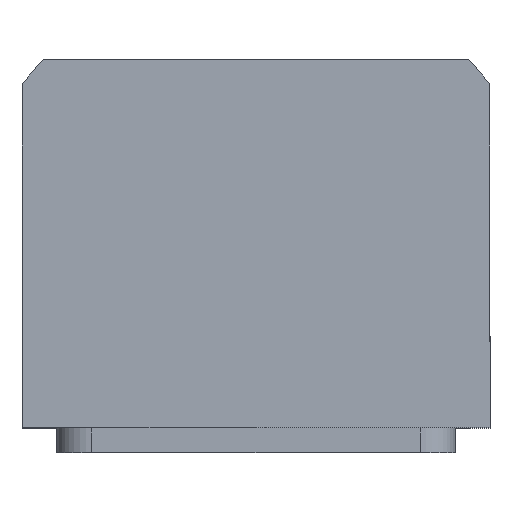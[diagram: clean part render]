
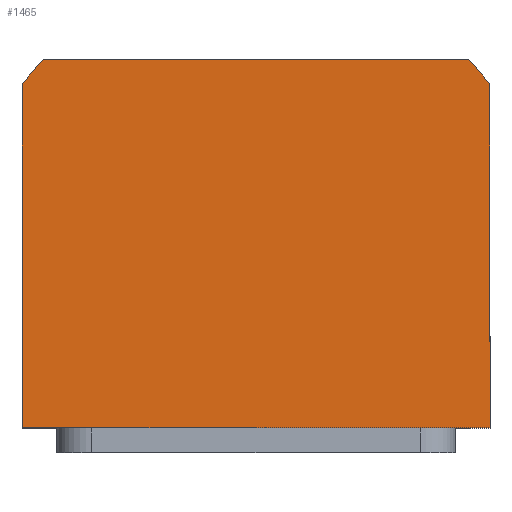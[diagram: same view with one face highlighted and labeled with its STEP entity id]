
A CAD part, top view. The second image highlights one B-rep face of the part: STEP entity #1465.
In plain terms, the highlighted planar face has unit normal (0, 0, 1).
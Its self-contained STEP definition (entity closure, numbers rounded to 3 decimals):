
#549 = DIRECTION ( 'NONE',  ( 0., 0., 1. ) ) ;
#1124 = EDGE_CURVE ( 'NONE', #9868, #4950, #4697, .T. ) ;
#1341 = CIRCLE ( 'NONE', #9817, 58.5 ) ;
#1465 = ADVANCED_FACE ( 'NONE', ( #9880 ), #2887, .T. ) ;
#1643 = DIRECTION ( 'NONE',  ( 1., 0., 0. ) ) ;
#1713 = DIRECTION ( 'NONE',  ( 1., 0., 0. ) ) ;
#1800 = CARTESIAN_POINT ( 'NONE',  ( 47., 34.832, 42.5 ) ) ;
#2244 = EDGE_CURVE ( 'NONE', #6904, #3081, #1341, .T. ) ;
#2869 = ORIENTED_EDGE ( 'NONE', *, *, #8954, .T. ) ;
#2887 = PLANE ( 'NONE',  #3330 ) ;
#2934 = CARTESIAN_POINT ( 'NONE',  ( -47., 34.832, 42.5 ) ) ;
#2999 = ORIENTED_EDGE ( 'NONE', *, *, #1124, .T. ) ;
#3081 = VERTEX_POINT ( 'NONE', #2934 ) ;
#3216 = VECTOR ( 'NONE', #10989, 1000. ) ;
#3330 = AXIS2_PLACEMENT_3D ( 'NONE', #14365, #549, #1713 ) ;
#3713 = EDGE_CURVE ( 'NONE', #3081, #14892, #5524, .T. ) ;
#4087 = ORIENTED_EDGE ( 'NONE', *, *, #2244, .T. ) ;
#4697 = LINE ( 'NONE', #13490, #10845 ) ;
#4826 = LINE ( 'NONE', #7560, #3216 ) ;
#4950 = VERTEX_POINT ( 'NONE', #1800 ) ;
#5471 = DIRECTION ( 'NONE',  ( 1., 0., 0. ) ) ;
#5524 = LINE ( 'NONE', #14436, #6455 ) ;
#5588 = CARTESIAN_POINT ( 'NONE',  ( -42.688, 40., 42.5 ) ) ;
#6239 = CARTESIAN_POINT ( 'NONE',  ( 0., 0., 42.5 ) ) ;
#6455 = VECTOR ( 'NONE', #10846, 1000. ) ;
#6474 = DIRECTION ( 'NONE',  ( 0., 1., 0. ) ) ;
#6485 = EDGE_CURVE ( 'NONE', #4950, #11228, #7096, .T. ) ;
#6904 = VERTEX_POINT ( 'NONE', #5588 ) ;
#7096 = CIRCLE ( 'NONE', #7098, 58.5 ) ;
#7098 = AXIS2_PLACEMENT_3D ( 'NONE', #6239, #7386, #1643 ) ;
#7386 = DIRECTION ( 'NONE',  ( 0., 0., 1. ) ) ;
#7411 = CARTESIAN_POINT ( 'NONE',  ( 47., -34., 42.5 ) ) ;
#7560 = CARTESIAN_POINT ( 'NONE',  ( 47., -34., 42.5 ) ) ;
#7646 = EDGE_LOOP ( 'NONE', ( #2869, #2999, #9563, #13043, #4087, #12487 ) ) ;
#8489 = EDGE_CURVE ( 'NONE', #11228, #6904, #10991, .T. ) ;
#8954 = EDGE_CURVE ( 'NONE', #14892, #9868, #4826, .T. ) ;
#9102 = DIRECTION ( 'NONE',  ( 0., 0., 1. ) ) ;
#9563 = ORIENTED_EDGE ( 'NONE', *, *, #6485, .T. ) ;
#9584 = CARTESIAN_POINT ( 'NONE',  ( -42.688, 40., 42.5 ) ) ;
#9817 = AXIS2_PLACEMENT_3D ( 'NONE', #11224, #9102, #5471 ) ;
#9868 = VERTEX_POINT ( 'NONE', #7411 ) ;
#9880 = FACE_OUTER_BOUND ( 'NONE', #7646, .T. ) ;
#10725 = DIRECTION ( 'NONE',  ( -1., 0., 0. ) ) ;
#10845 = VECTOR ( 'NONE', #6474, 1000. ) ;
#10846 = DIRECTION ( 'NONE',  ( 0., -1., 0. ) ) ;
#10989 = DIRECTION ( 'NONE',  ( 1., 0., 0. ) ) ;
#10991 = LINE ( 'NONE', #9584, #12591 ) ;
#11224 = CARTESIAN_POINT ( 'NONE',  ( 0., 0., 42.5 ) ) ;
#11228 = VERTEX_POINT ( 'NONE', #11337 ) ;
#11298 = CARTESIAN_POINT ( 'NONE',  ( -47., -34., 42.5 ) ) ;
#11337 = CARTESIAN_POINT ( 'NONE',  ( 42.688, 40., 42.5 ) ) ;
#12487 = ORIENTED_EDGE ( 'NONE', *, *, #3713, .T. ) ;
#12591 = VECTOR ( 'NONE', #10725, 1000. ) ;
#13043 = ORIENTED_EDGE ( 'NONE', *, *, #8489, .T. ) ;
#13490 = CARTESIAN_POINT ( 'NONE',  ( 47., 34.832, 42.5 ) ) ;
#14365 = CARTESIAN_POINT ( 'NONE',  ( 0., 0., 42.5 ) ) ;
#14436 = CARTESIAN_POINT ( 'NONE',  ( -47., -34., 42.5 ) ) ;
#14892 = VERTEX_POINT ( 'NONE', #11298 ) ;
